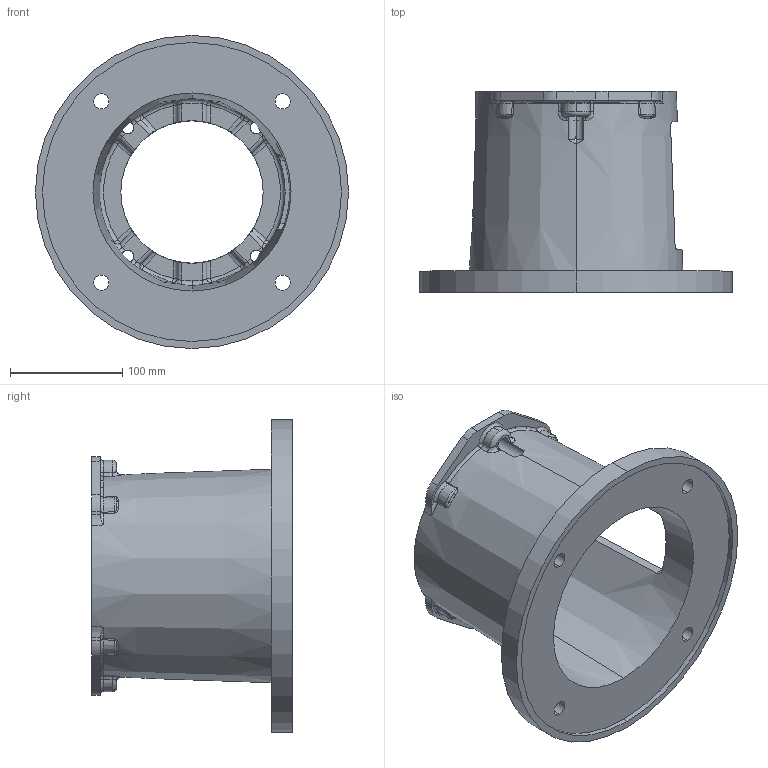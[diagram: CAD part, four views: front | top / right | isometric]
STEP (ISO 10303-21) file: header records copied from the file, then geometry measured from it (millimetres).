
FILE_DESCRIPTION (( 'STEP AP203' ), '1' );
FILE_NAME ('M284682C.STEP', '2007-12-21T21:04:18', ( 'Chris McCoy' ), ( 'Magnaloy Coupling Co' ), 'SwSTEP 2.0', 'SolidWorks 2007', '' );
FILE_SCHEMA (( 'CONFIG_CONTROL_DESIGN' ));
Length unit declared in the file: inch
Products named in the file (1): M284682C
Bounding box: 279.4 x 179.32 x 279.4 mm (x, y, z)
Volume: 1294051.2 mm3; surface area: 301369.5 mm2
Topology: 1 solids, 1 shells, 322 faces, 872 edges, 520 vertices
Faces by surface type: cylinder 86, torus 76, bspline 64, plane 50, sphere 24, cone 22
Entity records: 14377 total; most frequent: CARTESIAN_POINT 6911, ORIENTED_EDGE 1696, DIRECTION 1438, EDGE_CURVE 848, AXIS2_PLACEMENT_3D 641, VERTEX_POINT 520, CIRCLE 382, EDGE_LOOP 342
